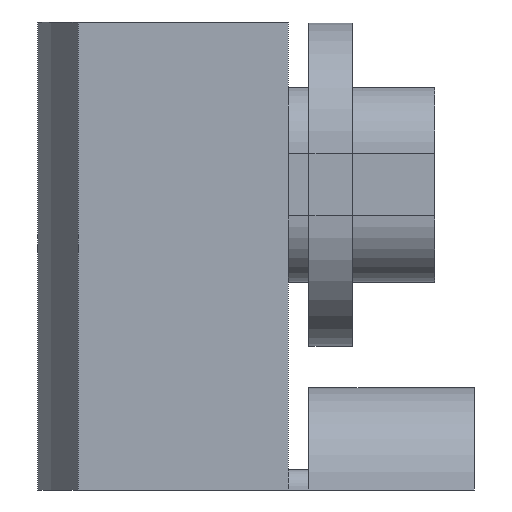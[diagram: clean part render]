
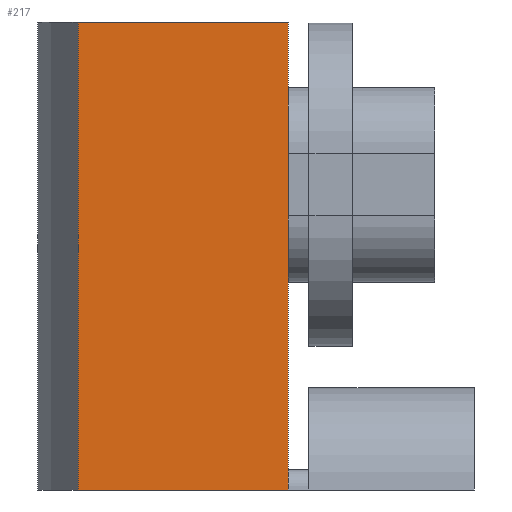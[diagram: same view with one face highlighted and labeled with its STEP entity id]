
A CAD part, left-side view. The second image highlights one B-rep face of the part: STEP entity #217.
In plain terms, the highlighted planar face has unit normal (-1, 0, 0).
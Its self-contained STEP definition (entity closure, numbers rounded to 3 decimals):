
#217=ADVANCED_FACE('',(#347),#348,.T.);
#347=FACE_OUTER_BOUND('',#599,.T.);
#348=PLANE('',#600);
#599=EDGE_LOOP('',(#866,#867,#868,#869));
#600=AXIS2_PLACEMENT_3D('',#870,#871,#872);
#866=ORIENTED_EDGE('',*,*,#1725,.T.);
#867=ORIENTED_EDGE('',*,*,#1718,.F.);
#868=ORIENTED_EDGE('',*,*,#1726,.F.);
#869=ORIENTED_EDGE('',*,*,#1723,.T.);
#870=CARTESIAN_POINT('',(-80.0,72.757,0.0));
#871=DIRECTION('',(-1.0,-0.0,0.0));
#872=DIRECTION('',(0.0,-1.0,-0.0));
#1718=EDGE_CURVE('',#1966,#1961,#1968,.T.);
#1723=EDGE_CURVE('',#1976,#1974,#1977,.T.);
#1725=EDGE_CURVE('',#1974,#1961,#1979,.T.);
#1726=EDGE_CURVE('',#1976,#1966,#1980,.T.);
#1961=VERTEX_POINT('',#2371);
#1966=VERTEX_POINT('',#2377);
#1968=LINE('',#2379,#2380);
#1974=VERTEX_POINT('',#2389);
#1976=VERTEX_POINT('',#2392);
#1977=LINE('',#2393,#2394);
#1979=LINE('',#2397,#2398);
#1980=LINE('',#2399,#2400);
#2371=CARTESIAN_POINT('',(-80.0,98.114,113.0));
#2377=CARTESIAN_POINT('',(-80.0,98.114,0.0));
#2379=CARTESIAN_POINT('',(-80.0,98.114,0.0));
#2380=VECTOR('',#2996,1.0);
#2389=CARTESIAN_POINT('',(-80.0,47.4,113.0));
#2392=CARTESIAN_POINT('',(-80.0,47.4,0.0));
#2393=CARTESIAN_POINT('',(-80.0,47.4,0.0));
#2394=VECTOR('',#3001,1.0);
#2397=CARTESIAN_POINT('',(-80.0,47.4,113.0));
#2398=VECTOR('',#3003,1.0);
#2399=CARTESIAN_POINT('',(-80.0,47.4,0.0));
#2400=VECTOR('',#3004,1.0);
#2996=DIRECTION('',(0.0,0.0,1.0));
#3001=DIRECTION('',(0.0,0.0,1.0));
#3003=DIRECTION('',(0.0,1.0,0.0));
#3004=DIRECTION('',(0.0,1.0,0.0));
